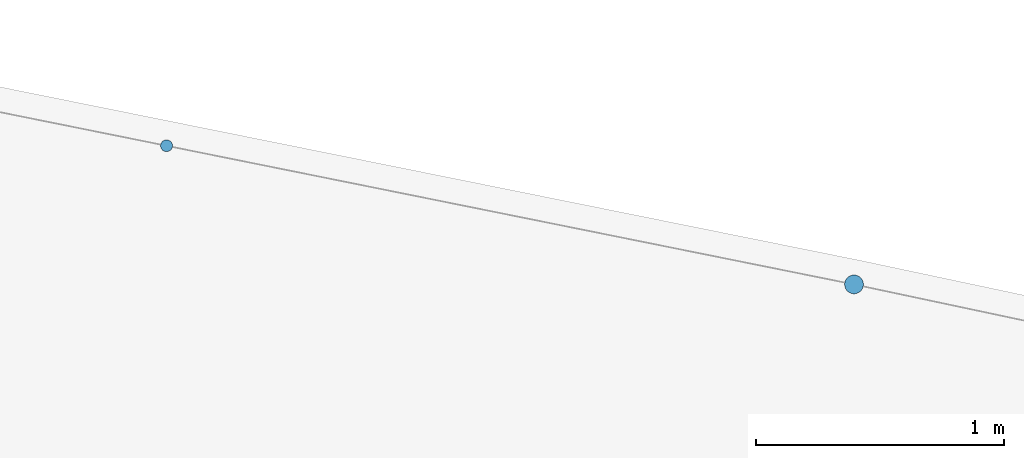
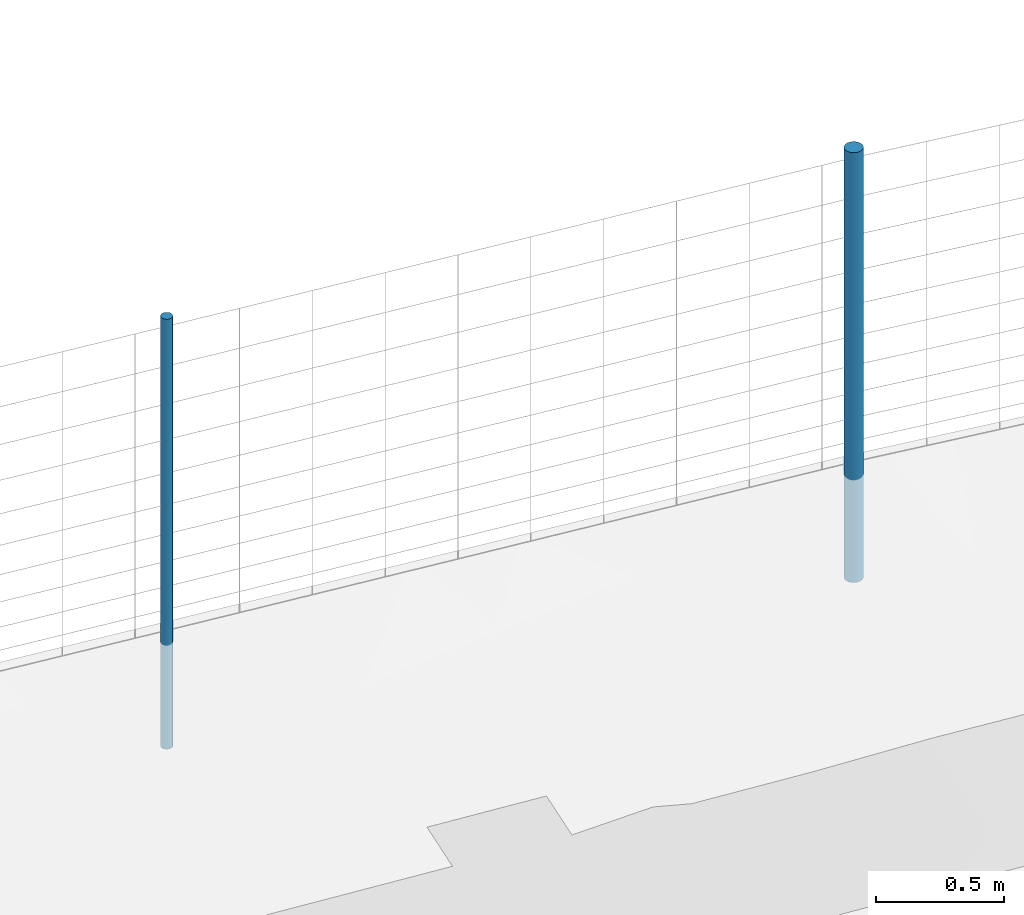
# Not in any storey, part 14 of 72: 2 members.
"""IFC4 model written with IfcOpenShell, lengths in metres."""

import ifcopenshell
import ifcopenshell.guid

model = None  # the IFC model being written
_history = None  # IfcOwnerHistory: only IFC2X3 demands one
_inside = {}  # id of a spatial element -> (the spatial element, [elements in it])
_under = {}  # id of a project, library or spatial element -> (it, [spatial elements below it])
_declared = {}  # id of a project -> (the project, [libraries it declares])
_typed = {}  # id of a type object -> (the type object, [elements of that type])
_made_of = {}  # id of a material, layer set ... -> (it, [elements and type objects made of it])


def new_model(schema):
    """Start an empty IFC model of exactly this schema.

    Asked for "IFC4X3", IfcOpenShell would pick the latest addendum, in which some entities
    have other attributes; the version numbers below select the first issue.
    IFC2X3 requires an IfcOwnerHistory on every rooted entity: one is made here for all.
    """
    global model, _history
    if schema == "IFC4X3":
        model = ifcopenshell.file(schema_version=(4, 3, 0, 0))
    else:
        model = ifcopenshell.file(schema=schema)
    _inside.clear()
    _under.clear()
    _declared.clear()
    _typed.clear()
    _made_of.clear()
    _history = None
    if model.schema == "IFC2X3":
        org = make("IfcOrganization", Name="unknown")
        user = make(
            "IfcPersonAndOrganization",
            ThePerson=make("IfcPerson", FamilyName="unknown"),
            TheOrganization=org,
        )
        app = make(
            "IfcApplication",
            ApplicationDeveloper=org,
            Version="unknown",
            ApplicationFullName="unknown",
            ApplicationIdentifier="unknown",
        )
        _history = make(
            "IfcOwnerHistory",
            OwningUser=user,
            OwningApplication=app,
            ChangeAction="ADDED",
            CreationDate=0,
        )
    return model


def make(cls, **values):
    """One entity of the class cls with the attributes given. An attribute that is None is left unset."""
    return model.create_entity(
        cls, **{name: value for name, value in values.items() if value is not None}
    )


def rooted(cls, **values):
    """An entity with a GlobalId (a new one), such as an element, a storey or a relation."""
    return make(cls, GlobalId=ifcopenshell.guid.new(), OwnerHistory=_history, **values)


def si_unit(unit_type, name, prefix=None):
    """IfcSIUnit, for example si_unit("LENGTHUNIT", "METRE", prefix="MILLI")."""
    return make("IfcSIUnit", UnitType=unit_type, Prefix=prefix, Name=name)


def assignment(units):
    """IfcUnitAssignment: the units of a project."""
    return None if units is None else make("IfcUnitAssignment", Units=units)


def point(xyz):
    """IfcCartesianPoint."""
    return None if xyz is None else make("IfcCartesianPoint", Coordinates=xyz)


def direction(xyz):
    """IfcDirection."""
    return None if xyz is None else make("IfcDirection", DirectionRatios=xyz)


def frame(location, z_axis=None, x_axis=None):
    """IfcAxis2Placement3D, a coordinate frame: its origin and axes. An axis left out is left unset."""
    return make(
        "IfcAxis2Placement3D",
        Location=point(location),
        Axis=direction(z_axis),
        RefDirection=direction(x_axis),
    )


def origin_with_axes():
    """The frame at (0, 0, 0) with the z axis (0, 0, 1) and the x axis (1, 0, 0) written out."""
    return frame((0.0, 0.0, 0.0), z_axis=(0.0, 0.0, 1.0), x_axis=(1.0, 0.0, 0.0))


def place(relative_to, where):
    """IfcLocalPlacement: puts the frame where relative to a parent placement (None: the world)."""
    return make(
        "IfcLocalPlacement", PlacementRelTo=relative_to, RelativePlacement=where
    )


def context(
    kind, dimensions, precision=None, world=None, true_north=None, identifier=None
):
    """IfcGeometricRepresentationContext, for example the 3D "Model" context."""
    return make(
        "IfcGeometricRepresentationContext",
        ContextIdentifier=identifier,
        ContextType=kind,
        CoordinateSpaceDimension=dimensions,
        Precision=precision,
        WorldCoordinateSystem=world,
        TrueNorth=true_north,
    )


def subcontext(parent, identifier, kind, view, scale=None):
    """IfcGeometricRepresentationSubContext, for example "Body" below "Model"."""
    return make(
        "IfcGeometricRepresentationSubContext",
        ContextIdentifier=identifier,
        ContextType=kind,
        ParentContext=parent,
        TargetScale=scale,
        TargetView=view,
    )


def project(units=None, contexts=None):
    """IfcProject with its units and contexts."""
    return rooted(
        "IfcProject",
        Name="project",
        RepresentationContexts=contexts,
        UnitsInContext=assignment(units),
    )


def spatial(cls, under=None, at=None, **own):
    """A site, building, storey or space (cls), placed at a placement, below another one or the project."""
    s = rooted(cls, ObjectPlacement=at, **own)
    if under is not None:
        _under.setdefault(under.id(), (under, []))[1].append(s)
    return s


def profile(cls, at=None, kind="AREA", **sizes):
    """A parametric profile (cls). Its sizes go by their IFC names, for example OverallWidth=200.0."""
    return make(cls, ProfileType=kind, Position=at, **sizes)


def circle(**sizes):
    """IfcCircleProfileDef."""
    return profile("IfcCircleProfileDef", **sizes)


def extrude(swept, where, along, depth):
    """IfcExtrudedAreaSolid: the profile swept, set in the frame where, extruded along a direction by depth."""
    return make(
        "IfcExtrudedAreaSolid",
        SweptArea=swept,
        Position=where,
        ExtrudedDirection=direction(along),
        Depth=depth,
    )


def shape(context_of_items, identifier, shape_type, items):
    """IfcShapeRepresentation: the items that make up one representation, for example the "Body"."""
    return make(
        "IfcShapeRepresentation",
        ContextOfItems=context_of_items,
        RepresentationIdentifier=identifier,
        RepresentationType=shape_type,
        Items=items,
    )


def material(Name=None, Category=None):
    """IfcMaterial."""
    return make("IfcMaterial", Name=Name, Category=Category)


def material_profile(
    of_material, cross_section, Name=None, Category=None, Priority=None
):
    """IfcMaterialProfile: a cross section and its material."""
    return make(
        "IfcMaterialProfile",
        Name=Name,
        Material=of_material,
        Profile=cross_section,
        Priority=Priority,
        Category=Category,
    )


def profile_set(profiles, Name=None, composite=None):
    """IfcMaterialProfileSet."""
    return make(
        "IfcMaterialProfileSet",
        Name=Name,
        MaterialProfiles=profiles,
        CompositeProfile=composite,
    )


def profile_usage(for_profile_set, cardinal=None, extent=None):
    """IfcMaterialProfileSetUsage: how a profile set lies along its element."""
    return make(
        "IfcMaterialProfileSetUsage",
        ForProfileSet=for_profile_set,
        CardinalPoint=cardinal,
        ReferenceExtent=extent,
    )


def made_of(thing, what):
    """Note that an element or type object is made of a material, layer set ...; save() writes the relation."""
    if what is not None:
        _made_of.setdefault(what.id(), (what, []))[1].append(thing)
    return thing


def type_object(cls, material=None, **own):
    """A type object (cls), such as IfcWallType, which elements share."""
    return made_of(rooted(cls, **own), material)


def element(
    cls,
    number,
    at=None,
    inside=None,
    cuts=None,
    type_object=None,
    material=None,
    context=None,
    identifier="Body",
    shape_type=None,
    held_by="IfcProductDefinitionShape",
    body=None,
    shapes=None,
    **own,
):
    """One element of the class cls, such as IfcWall. Its Tag is "e" and its number.

    at: its placement. inside: the storey or other place that contains it. cuts: it is an
    opening in that element (IfcRelVoidsElement). A single representation is given by context,
    identifier, shape_type and body (its items); several are given by shapes. held_by: the class
    of the entity that holds the representations. save() writes the other relations.
    """
    e = rooted(cls, Tag="e%d" % number, ObjectPlacement=at, **own)
    if body is not None:
        shapes = [shape(context, identifier, shape_type, body)]
    if shapes is not None:
        e.Representation = make(held_by, Representations=shapes)
    if inside is not None:
        _inside.setdefault(inside.id(), (inside, []))[1].append(e)
    if cuts is not None:
        rooted(
            "IfcRelVoidsElement", RelatingBuildingElement=cuts, RelatedOpeningElement=e
        )
    if type_object is not None:
        _typed.setdefault(type_object.id(), (type_object, []))[1].append(e)
    return made_of(e, material)


def aggregate(whole, parts):
    """IfcRelAggregates: a whole, such as a stair, and the parts it consists of."""
    return rooted("IfcRelAggregates", RelatingObject=whole, RelatedObjects=parts)


def save(model, path):
    """Write the relations noted so far, then the file.

    IfcRelAggregates (storeys below a building ...), IfcRelContainedInSpatialStructure (elements
    in a storey), IfcRelDefinesByType, IfcRelAssociatesMaterial and IfcRelDeclares: one each for
    every whole, place, type object, material and project.
    """
    for whole, parts in _under.values():
        aggregate(whole, parts)
    for where, things in _inside.values():
        rooted(
            "IfcRelContainedInSpatialStructure",
            RelatedElements=things,
            RelatingStructure=where,
        )
    for kind, things in _typed.values():
        rooted("IfcRelDefinesByType", RelatedObjects=things, RelatingType=kind)
    for what, things in _made_of.values():
        rooted("IfcRelAssociatesMaterial", RelatedObjects=things, RelatingMaterial=what)
    for by, libraries in _declared.values():
        rooted("IfcRelDeclares", RelatingContext=by, RelatedDefinitions=libraries)
    model.write(path)


model = new_model("IFC4")

# Units and contexts
model_context = context("Model", 3, precision=1e-05, world=origin_with_axes(), true_north=direction((0.0, 1.0)))
body_context = subcontext(model_context, "Body", "Model", "MODEL_VIEW")
ifc_project = project(units=[si_unit("AREAUNIT", "SQUARE_METRE"), si_unit("VOLUMEUNIT", "CUBIC_METRE"), si_unit("LENGTHUNIT", "METRE")], contexts=[model_context])

# Site
site_placement = place(None, origin_with_axes())
site = spatial("IfcSite", under=ifc_project, at=site_placement, Name="Lares · Rua das Mercês · artigo 4771")

# Members
ifc_material = material(Name="Aço galvanizado / Stahl verzinkt", Category="steel")
ifc_material_profile_1 = material_profile(ifc_material, circle(Radius=0.038))
ifc_profile_set_1 = profile_set([ifc_material_profile_1], Name="D0.076")
ifc_profile_usage_1 = profile_usage(ifc_profile_set_1)
member_type_1 = type_object("IfcMemberType", Name="D0.076 / galvanized", PredefinedType="NOTDEFINED", material=ifc_profile_set_1)
member_1_placement = place(site_placement, frame((73.5213235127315, 9.69167589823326, 15.7070512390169), z_axis=(0.0, 0.0, 1.0), x_axis=(1.0, -1.03767253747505e-17, 0.0)))
element("IfcMember", 1, at=member_1_placement, inside=site, type_object=member_type_1, material=ifc_profile_usage_1, Name="Vedação · poste de canto/topo", PredefinedType="POST", context=body_context, shape_type="SweptSolid", body=[
    extrude(circle(Radius=0.038), origin_with_axes(), (0.0, 0.0, 1.0), 2.05),
])
ifc_material_profile_2 = material_profile(ifc_material, circle(Radius=0.024))
ifc_profile_set_2 = profile_set([ifc_material_profile_2], Name="D0.048")
ifc_profile_usage_2 = profile_usage(ifc_profile_set_2)
member_type_2 = type_object("IfcMemberType", Name="D0.048 / galvanized", PredefinedType="NOTDEFINED", material=ifc_profile_set_2)
member_2_placement = place(site_placement, frame((70.7468386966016, 10.2512728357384, 15.5350807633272), z_axis=(0.0, 0.0, 1.0), x_axis=(1.0, -1.03767253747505e-17, 0.0)))
element("IfcMember", 2, at=member_2_placement, inside=site, type_object=member_type_2, material=ifc_profile_usage_2, Name="Vedação · poste intermédio", PredefinedType="POST", context=body_context, shape_type="SweptSolid", body=[
    extrude(circle(Radius=0.024), origin_with_axes(), (0.0, 0.0, 1.0), 2.05),
])

save(model, "model.ifc")
